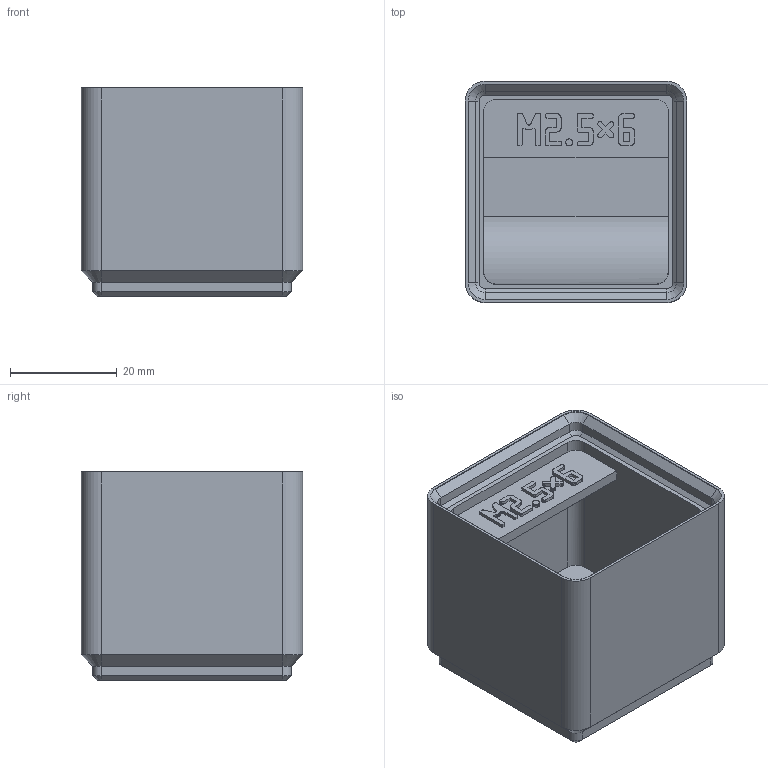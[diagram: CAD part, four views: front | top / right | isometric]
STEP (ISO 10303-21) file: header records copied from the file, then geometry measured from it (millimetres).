
FILE_DESCRIPTION(('Open CASCADE Model'),'2;1');
FILE_NAME('m2p5-screw-6','2026-11-17T16:07:57',('Author'),( 'Open CASCADE'),'Open CASCADE STEP processor 8.0','build123d', 'Unknown');
FILE_SCHEMA(('AUTOMOTIVE_DESIGN { 1 0 10303 214 1 1 1 1 }'));
Length unit declared in the file: millimetre
Products named in the file (1): m2p5-screw-6
Bounding box: 41.5 x 41.5 x 39 mm (x, y, z)
Volume: 30864.5 mm3; surface area: 13684.7 mm2
Topology: 1 solids, 1 shells, 671 faces, 1932 edges, 1272 vertices
Faces by surface type: plane 632, cylinder 22, cone 16, extrusion 1
Entity records: 45690 total; most frequent: CARTESIAN_POINT 9403, DIRECTION 5887, VECTOR 4423, LINE 4422, ORIENTED_EDGE 3864, PCURVE 3864, DEFINITIONAL_REPRESENTATION 3864, EDGE_CURVE 1932
